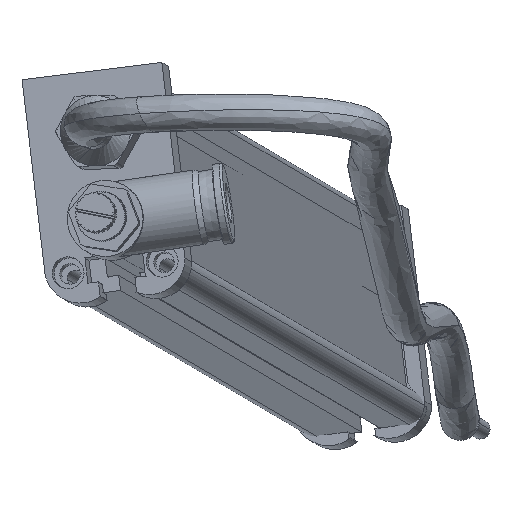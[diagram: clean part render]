
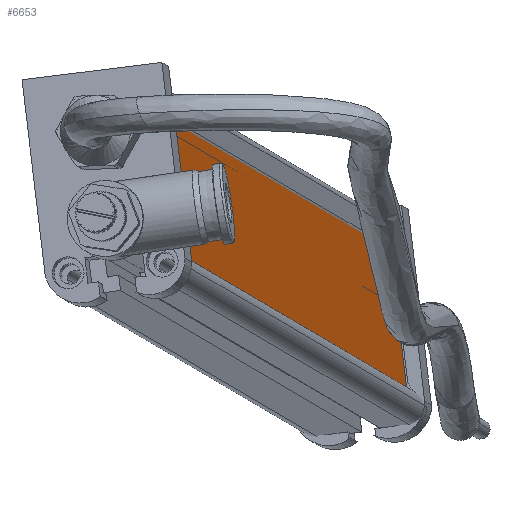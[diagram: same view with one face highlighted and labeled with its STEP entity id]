
A CAD part, top view. The second image highlights one B-rep face of the part: STEP entity #6653.
In plain terms, the highlighted planar face has unit normal (0.99, 0.122, 0.078) as drawn and (0, 0, 1) by its records, which use the part's own axes.
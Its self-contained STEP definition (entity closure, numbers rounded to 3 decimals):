
#431 = VERTEX_POINT ( 'NONE', #40574 ) ;
#676 = LINE ( 'NONE', #35407, #43232 ) ;
#1509 = EDGE_LOOP ( 'NONE', ( #41972, #4686, #49912, #2278 ) ) ;
#2278 = ORIENTED_EDGE ( 'NONE', *, *, #37624, .T. ) ;
#3244 = CARTESIAN_POINT ( 'NONE',  ( 0., 0.152, 7.96 ) ) ;
#4686 = ORIENTED_EDGE ( 'NONE', *, *, #24777, .F. ) ;
#4790 = CARTESIAN_POINT ( 'NONE',  ( 580., 0.152, 7.96 ) ) ;
#6550 = VERTEX_POINT ( 'NONE', #3244 ) ;
#6633 = VECTOR ( 'NONE', #22242, 1000. ) ;
#6653 = ADVANCED_FACE ( 'NONE', ( #37676 ), #51064, .F. ) ;
#7031 = EDGE_CURVE ( 'NONE', #431, #47198, #676, .T. ) ;
#7411 = DIRECTION ( 'NONE',  ( 0., 1., 0. ) ) ;
#8663 = DIRECTION ( 'NONE',  ( 0., 0., -1. ) ) ;
#9465 = DIRECTION ( 'NONE',  ( 0., -1., 0. ) ) ;
#12451 = VECTOR ( 'NONE', #9465, 1000. ) ;
#16585 = DIRECTION ( 'NONE',  ( 1., 0., 0. ) ) ;
#19039 = CARTESIAN_POINT ( 'NONE',  ( 580., -3.388, 7.96 ) ) ;
#22242 = DIRECTION ( 'NONE',  ( -1., 0., 0. ) ) ;
#24777 = EDGE_CURVE ( 'NONE', #47198, #46837, #42296, .T. ) ;
#25246 = DIRECTION ( 'NONE',  ( 0., -1., 0. ) ) ;
#34791 = LINE ( 'NONE', #39579, #45573 ) ;
#35407 = CARTESIAN_POINT ( 'NONE',  ( 580., 30.152, 7.96 ) ) ;
#37624 = EDGE_CURVE ( 'NONE', #431, #6550, #34791, .T. ) ;
#37676 = FACE_OUTER_BOUND ( 'NONE', #1509, .T. ) ;
#37884 = CARTESIAN_POINT ( 'NONE',  ( 580., 30.152, 7.96 ) ) ;
#39579 = CARTESIAN_POINT ( 'NONE',  ( 0., -3.388, 7.96 ) ) ;
#40574 = CARTESIAN_POINT ( 'NONE',  ( 0., 30.152, 7.96 ) ) ;
#41972 = ORIENTED_EDGE ( 'NONE', *, *, #50072, .F. ) ;
#42173 = AXIS2_PLACEMENT_3D ( 'NONE', #57055, #8663, #7411 ) ;
#42296 = LINE ( 'NONE', #19039, #12451 ) ;
#43232 = VECTOR ( 'NONE', #16585, 1000. ) ;
#45573 = VECTOR ( 'NONE', #25246, 1000. ) ;
#46837 = VERTEX_POINT ( 'NONE', #4790 ) ;
#47198 = VERTEX_POINT ( 'NONE', #37884 ) ;
#49912 = ORIENTED_EDGE ( 'NONE', *, *, #7031, .F. ) ;
#50072 = EDGE_CURVE ( 'NONE', #46837, #6550, #51213, .T. ) ;
#51064 = PLANE ( 'NONE',  #42173 ) ;
#51213 = LINE ( 'NONE', #61066, #6633 ) ;
#57055 = CARTESIAN_POINT ( 'NONE',  ( 580., 30.152, 7.96 ) ) ;
#61066 = CARTESIAN_POINT ( 'NONE',  ( 580., 0.152, 7.96 ) ) ;
